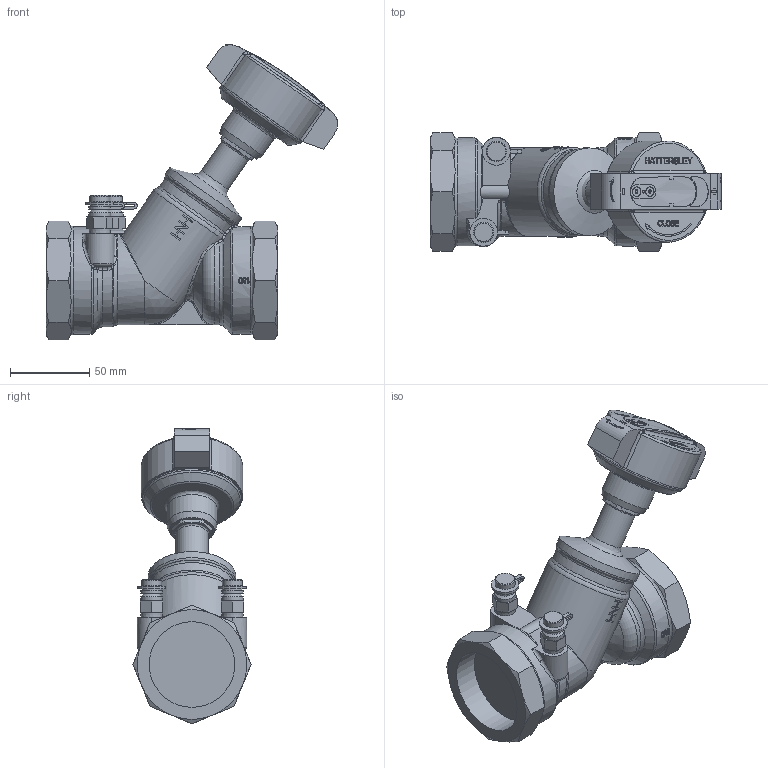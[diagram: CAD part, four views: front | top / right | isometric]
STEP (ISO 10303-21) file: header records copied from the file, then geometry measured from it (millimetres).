
FILE_DESCRIPTION((''),'2;1');
FILE_NAME('P:\Fastrack\53972_CRANE 3D\Workspace\HATTERSLEY\Fig-1732_2in\Fig-1732_2in.stp','2011-03-07T15:48:05',('btaylor'),(''),'Autodesk Inventor 2008','Autodesk Inventor 2008','');
FILE_SCHEMA(('AUTOMOTIVE_DESIGN { 1 0 10303 214 1 1 1 1 }'));
Length unit declared in the file: millimetre
Products named in the file (1): Fig-1732_2in
Bounding box: 184.03 x 74.69 x 186.34 mm (x, y, z)
Volume: 610163.7 mm3; surface area: 72670.2 mm2
Topology: 1 solids, 1 shells, 1179 faces, 3217 edges, 2098 vertices
Faces by surface type: bspline 673, plane 342, cylinder 102, cone 47, torus 13, sphere 2
Full cylindrical faces by diameter (mm): 7.4 x2, 11 x2, 12.7 x2, 13.7 x2, 20.5 x1, 31.5 x1, 55.5 x1, 61.958 x1, 68 x2
Entity records: 151263 total; most frequent: CARTESIAN_POINT 125293, ORIENTED_EDGE 6312, EDGE_CURVE 3156, DIRECTION 3010, VERTEX_POINT 2077, B_SPLINE_CURVE_WITH_KNOTS 1386, EDGE_LOOP 1288, VECTOR 1288
